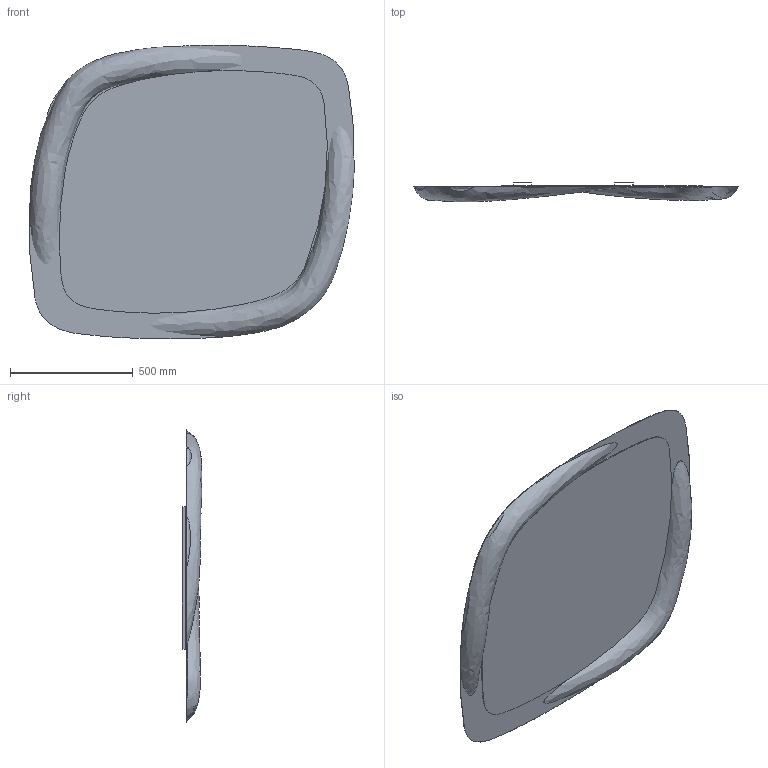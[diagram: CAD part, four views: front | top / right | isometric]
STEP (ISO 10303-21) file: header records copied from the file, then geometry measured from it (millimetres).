
FILE_DESCRIPTION (( 'STEP AP203' ), '1' );
FILE_NAME ('AST01_Astrum_132x120.STEP', '2024-08-06T07:18:23', ( '' ), ( '' ), 'SwSTEP 2.0', 'SolidWorks 2022', '' );
FILE_SCHEMA (( 'CONFIG_CONTROL_DESIGN' ));
Length unit declared in the file: millimetre
Products named in the file (3): ASTRUM_lamiera ancoraggio quadrata; SPECCHIO 1320X1200; AST01_Astrum_132x120
Assembly tree (2 placements, depth 2):
  AST01_Astrum_132x120
    SPECCHIO 1320X1200
    ASTRUM_lamiera ancoraggio quadrata
Bounding box: 1321.98 x 81.03 x 1193.43 mm (x, y, z)
Volume: 543107.5 mm3; surface area: 6193085.1 mm2
Topology: 1 solids, 5 shells, 206 faces, 516 edges, 312 vertices
Faces by surface type: plane 102, cylinder 102, bspline 2
Entity records: 23478 total; most frequent: CARTESIAN_POINT 18176, DIRECTION 1089, ORIENTED_EDGE 1032, EDGE_CURVE 516, AXIS2_PLACEMENT_3D 392, VERTEX_POINT 312, VECTOR 305, LINE 305
